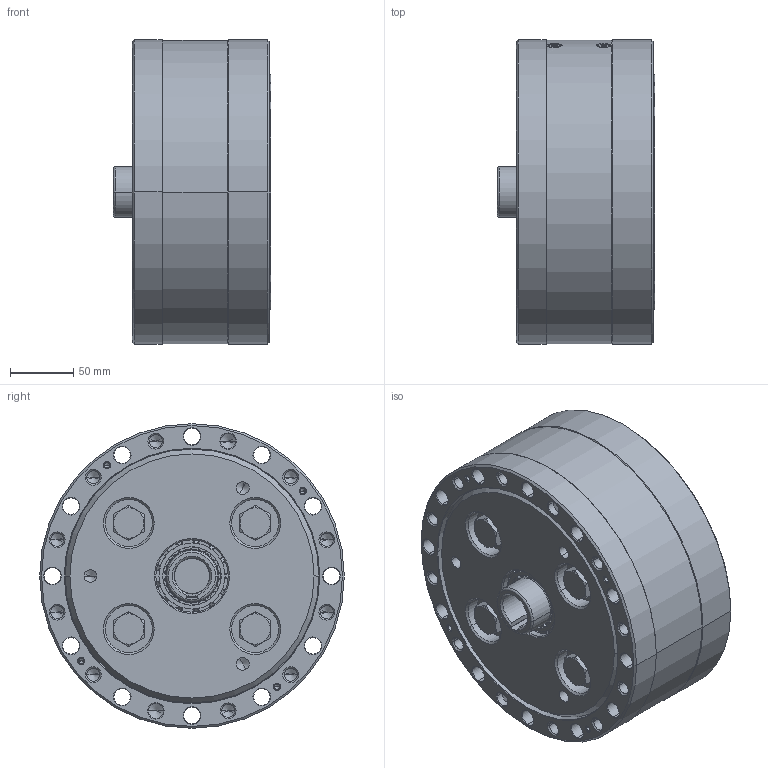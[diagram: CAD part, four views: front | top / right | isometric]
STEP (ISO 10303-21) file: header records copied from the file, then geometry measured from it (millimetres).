
FILE_DESCRIPTION((''),'2;1');
FILE_NAME('240_000TC_M732-3DMODEL','2012-01-19T',('feckov'),(''),'PRO/ENGINEER BY PARAMETRIC TECHNOLOGY CORPORATION, 2011310','PRO/ENGINEER BY PARAMETRIC TECHNOLOGY CORPORATION, 2011310','');
FILE_SCHEMA(('CONFIG_CONTROL_DESIGN'));
Length unit declared in the file: millimetre
Products named in the file (1): 240_000TC_M732-3DMODEL
Bounding box: 123.95 x 240 x 240 mm (x, y, z)
Volume: 4275836.9 mm3; surface area: 469396.8 mm2
Topology: 1 solids, 5 shells, 1497 faces, 3798 edges, 2189 vertices
Faces by surface type: plane 557, cone 469, cylinder 332, torus 139
Entity records: 50519 total; most frequent: CARTESIAN_POINT 14369, DIRECTION 8115, ORIENTED_EDGE 7400, EDGE_CURVE 3700, AXIS2_PLACEMENT_3D 3367, VERTEX_POINT 2189, CIRCLE 1870, EDGE_LOOP 1625
